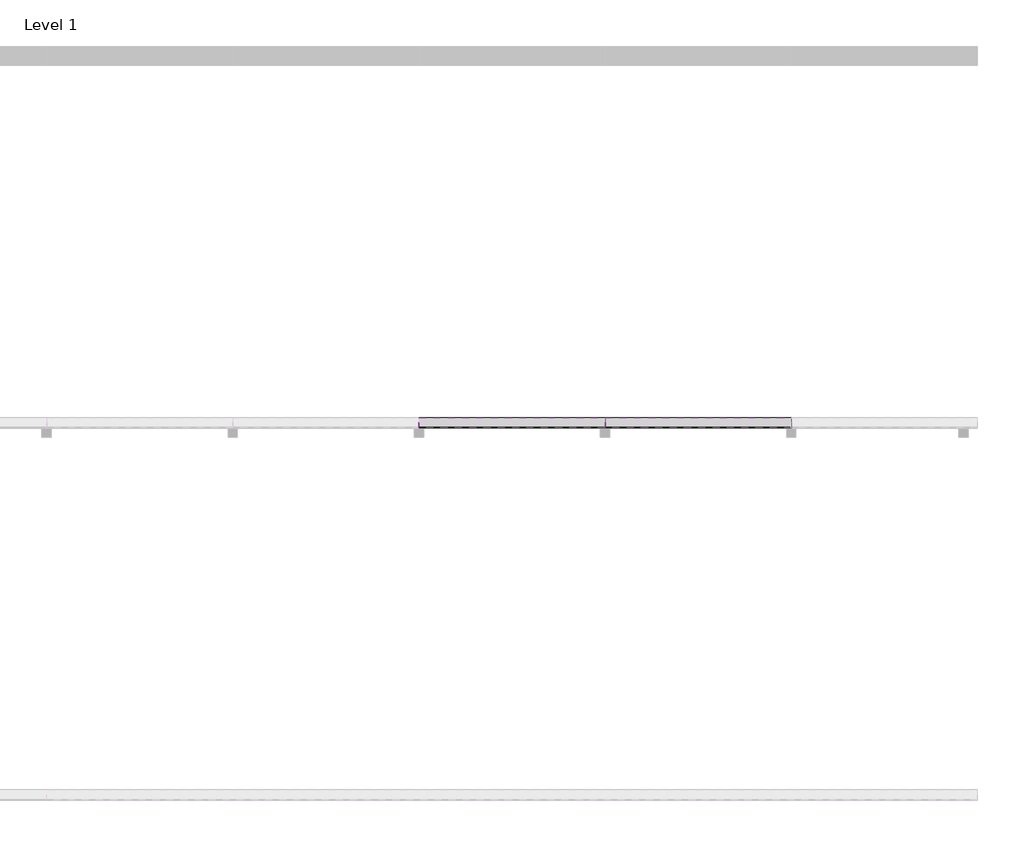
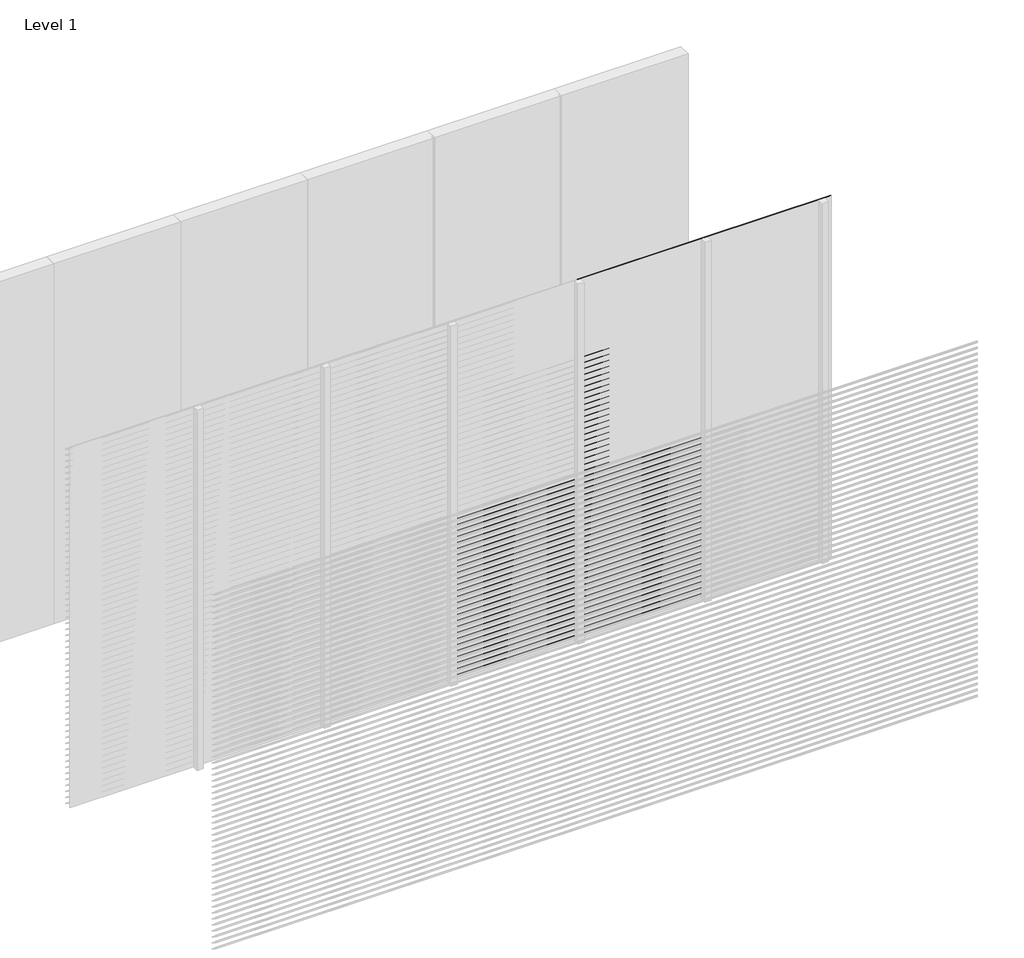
# One storey, part 9 of 18: 97 proxies.
"""IFC4 building model written with IfcOpenShell, lengths in millimetres."""

from ifc_helpers import new_model, si_unit, frame, origin, place, context, project, spatial, polyline, outline, extrude, element, save

model = new_model("IFC4")

# Units and contexts
model_context = context("Model", 3, world=origin())
ifc_project = project(units=[si_unit("LENGTHUNIT", "METRE", prefix="MILLI")], contexts=[model_context])

# Site, building, storey
site = spatial("IfcSite", under=ifc_project)
building = spatial("IfcBuilding", under=site)
storey = spatial("IfcBuildingStorey", under=building, Name="Level 1", Elevation=0.0)

# Proxies
placement = place(None, origin())
element("IfcBuildingElementProxy", 1, Name="Wall Sweeps", at=placement, inside=storey, context=model_context, shape_type="SweptSolid", body=[
    extrude(outline(polyline([(-11995.0, 1350.0), (-11995.0, 1341.0744429), (-11943.0, 1306.0), (-11943.0, 1300.0), (-11997.0, 1336.4234599), (-11997.0, 1350.0), (-11995.0, 1350.0)])), frame((3000.0, 0.0, 0.0), z_axis=(1.0, 0.0, 0.0), x_axis=(0.0, 1.0, 0.0)), (0.0, 0.0, 1.0), 1000.0),
])
element("IfcBuildingElementProxy", 2, Name="Wall Sweeps", at=placement, inside=storey, context=model_context, shape_type="SweptSolid", body=[
    extrude(outline(polyline([(-11995.0, 1300.0), (-11995.0, 1291.0744429), (-11943.0, 1256.0), (-11943.0, 1250.0), (-11997.0, 1286.4234599), (-11997.0, 1300.0), (-11995.0, 1300.0)])), frame((3000.0, 0.0, 0.0), z_axis=(1.0, 0.0, 0.0), x_axis=(0.0, 1.0, 0.0)), (0.0, 0.0, 1.0), 1000.0),
])
element("IfcBuildingElementProxy", 3, Name="Wall Sweeps", at=placement, inside=storey, context=model_context, shape_type="SweptSolid", body=[
    extrude(outline(polyline([(-11995.0, 1250.0), (-11995.0, 1241.0744429), (-11943.0, 1206.0), (-11943.0, 1200.0), (-11997.0, 1236.4234599), (-11997.0, 1250.0), (-11995.0, 1250.0)])), frame((3000.0, 0.0, 0.0), z_axis=(1.0, 0.0, 0.0), x_axis=(0.0, 1.0, 0.0)), (0.0, 0.0, 1.0), 1000.0),
])
element("IfcBuildingElementProxy", 4, Name="Wall Sweeps", at=placement, inside=storey, context=model_context, shape_type="SweptSolid", body=[
    extrude(outline(polyline([(-11995.0, 1200.0), (-11995.0, 1191.0744429), (-11943.0, 1156.0), (-11943.0, 1150.0), (-11997.0, 1186.4234599), (-11997.0, 1200.0), (-11995.0, 1200.0)])), frame((3000.0, 0.0, 0.0), z_axis=(1.0, 0.0, 0.0), x_axis=(0.0, 1.0, 0.0)), (0.0, 0.0, 1.0), 1000.0),
])
element("IfcBuildingElementProxy", 5, Name="Wall Sweeps", at=placement, inside=storey, context=model_context, shape_type="SweptSolid", body=[
    extrude(outline(polyline([(-11995.0, 1150.0), (-11995.0, 1141.0744429), (-11943.0, 1106.0), (-11943.0, 1100.0), (-11997.0, 1136.4234599), (-11997.0, 1150.0), (-11995.0, 1150.0)])), frame((3000.0, 0.0, 0.0), z_axis=(1.0, 0.0, 0.0), x_axis=(0.0, 1.0, 0.0)), (0.0, 0.0, 1.0), 1000.0),
])
element("IfcBuildingElementProxy", 6, Name="Wall Sweeps", at=placement, inside=storey, context=model_context, shape_type="SweptSolid", body=[
    extrude(outline(polyline([(-11995.0, 1100.0), (-11995.0, 1091.0744429), (-11943.0, 1056.0), (-11943.0, 1050.0), (-11997.0, 1086.4234599), (-11997.0, 1100.0), (-11995.0, 1100.0)])), frame((3000.0, 0.0, 0.0), z_axis=(1.0, 0.0, 0.0), x_axis=(0.0, 1.0, 0.0)), (0.0, 0.0, 1.0), 1000.0),
])
element("IfcBuildingElementProxy", 7, Name="Wall Sweeps", at=placement, inside=storey, context=model_context, shape_type="SweptSolid", body=[
    extrude(outline(polyline([(-11995.0, 1050.0), (-11995.0, 1041.0744429), (-11943.0, 1006.0), (-11943.0, 1000.0), (-11997.0, 1036.4234599), (-11997.0, 1050.0), (-11995.0, 1050.0)])), frame((3000.0, 0.0, 0.0), z_axis=(1.0, 0.0, 0.0), x_axis=(0.0, 1.0, 0.0)), (0.0, 0.0, 1.0), 1000.0),
])
element("IfcBuildingElementProxy", 8, Name="Wall Sweeps", at=placement, inside=storey, context=model_context, shape_type="SweptSolid", body=[
    extrude(outline(polyline([(-11995.0, 1000.0), (-11995.0, 991.0744429), (-11943.0, 956.0), (-11943.0, 950.0), (-11997.0, 986.4234599), (-11997.0, 1000.0), (-11995.0, 1000.0)])), frame((3000.0, 0.0, 0.0), z_axis=(1.0, 0.0, 0.0), x_axis=(0.0, 1.0, 0.0)), (0.0, 0.0, 1.0), 1000.0),
])
element("IfcBuildingElementProxy", 9, Name="Wall Sweeps", at=placement, inside=storey, context=model_context, shape_type="SweptSolid", body=[
    extrude(outline(polyline([(-11995.0, 950.0), (-11995.0, 941.0744429), (-11943.0, 906.0), (-11943.0, 900.0), (-11997.0, 936.4234599), (-11997.0, 950.0), (-11995.0, 950.0)])), frame((3000.0, 0.0, 0.0), z_axis=(1.0, 0.0, 0.0), x_axis=(0.0, 1.0, 0.0)), (0.0, 0.0, 1.0), 1000.0),
])
element("IfcBuildingElementProxy", 10, Name="Wall Sweeps", at=placement, inside=storey, context=model_context, shape_type="SweptSolid", body=[
    extrude(outline(polyline([(-11995.0, 900.0), (-11995.0, 891.0744429), (-11943.0, 856.0), (-11943.0, 850.0), (-11997.0, 886.4234599), (-11997.0, 900.0), (-11995.0, 900.0)])), frame((3000.0, 0.0, 0.0), z_axis=(1.0, 0.0, 0.0), x_axis=(0.0, 1.0, 0.0)), (0.0, 0.0, 1.0), 1000.0),
])
element("IfcBuildingElementProxy", 11, Name="Wall Sweeps", at=placement, inside=storey, context=model_context, shape_type="SweptSolid", body=[
    extrude(outline(polyline([(-11995.0, 850.0), (-11995.0, 841.0744429), (-11943.0, 806.0), (-11943.0, 800.0), (-11997.0, 836.4234599), (-11997.0, 850.0), (-11995.0, 850.0)])), frame((3000.0, 0.0, 0.0), z_axis=(1.0, 0.0, 0.0), x_axis=(0.0, 1.0, 0.0)), (0.0, 0.0, 1.0), 1000.0),
])
element("IfcBuildingElementProxy", 12, Name="Wall Sweeps", at=placement, inside=storey, context=model_context, shape_type="SweptSolid", body=[
    extrude(outline(polyline([(-11995.0, 800.0), (-11995.0, 791.0744429), (-11943.0, 756.0), (-11943.0, 750.0), (-11997.0, 786.4234599), (-11997.0, 800.0), (-11995.0, 800.0)])), frame((3000.0, 0.0, 0.0), z_axis=(1.0, 0.0, 0.0), x_axis=(0.0, 1.0, 0.0)), (0.0, 0.0, 1.0), 1000.0),
])
element("IfcBuildingElementProxy", 13, Name="Wall Sweeps", at=placement, inside=storey, context=model_context, shape_type="SweptSolid", body=[
    extrude(outline(polyline([(-11995.0, 750.0), (-11995.0, 741.0744429), (-11943.0, 706.0), (-11943.0, 700.0), (-11997.0, 736.4234599), (-11997.0, 750.0), (-11995.0, 750.0)])), frame((3000.0, 0.0, 0.0), z_axis=(1.0, 0.0, 0.0), x_axis=(0.0, 1.0, 0.0)), (0.0, 0.0, 1.0), 1000.0),
])
element("IfcBuildingElementProxy", 14, Name="Wall Sweeps", at=placement, inside=storey, context=model_context, shape_type="SweptSolid", body=[
    extrude(outline(polyline([(-11995.0, 700.0), (-11995.0, 691.0744429), (-11943.0, 656.0), (-11943.0, 650.0), (-11997.0, 686.4234599), (-11997.0, 700.0), (-11995.0, 700.0)])), frame((3000.0, 0.0, 0.0), z_axis=(1.0, 0.0, 0.0), x_axis=(0.0, 1.0, 0.0)), (0.0, 0.0, 1.0), 1000.0),
])
element("IfcBuildingElementProxy", 15, Name="Wall Sweeps", at=placement, inside=storey, context=model_context, shape_type="SweptSolid", body=[
    extrude(outline(polyline([(-11995.0, 650.0), (-11995.0, 641.0744429), (-11943.0, 606.0), (-11943.0, 600.0), (-11997.0, 636.4234599), (-11997.0, 650.0), (-11995.0, 650.0)])), frame((3000.0, 0.0, 0.0), z_axis=(1.0, 0.0, 0.0), x_axis=(0.0, 1.0, 0.0)), (0.0, 0.0, 1.0), 1000.0),
])
element("IfcBuildingElementProxy", 16, Name="Wall Sweeps", at=placement, inside=storey, context=model_context, shape_type="SweptSolid", body=[
    extrude(outline(polyline([(-11995.0, 600.0), (-11995.0, 591.0744429), (-11943.0, 556.0), (-11943.0, 550.0), (-11997.0, 586.4234599), (-11997.0, 600.0), (-11995.0, 600.0)])), frame((3000.0, 0.0, 0.0), z_axis=(1.0, 0.0, 0.0), x_axis=(0.0, 1.0, 0.0)), (0.0, 0.0, 1.0), 1000.0),
])
element("IfcBuildingElementProxy", 17, Name="Wall Sweeps", at=placement, inside=storey, context=model_context, shape_type="SweptSolid", body=[
    extrude(outline(polyline([(-11995.0, 550.0), (-11995.0, 541.0744429), (-11943.0, 506.0), (-11943.0, 500.0), (-11997.0, 536.4234599), (-11997.0, 550.0), (-11995.0, 550.0)])), frame((3000.0, 0.0, 0.0), z_axis=(1.0, 0.0, 0.0), x_axis=(0.0, 1.0, 0.0)), (0.0, 0.0, 1.0), 1000.0),
])
element("IfcBuildingElementProxy", 18, Name="Wall Sweeps", at=placement, inside=storey, context=model_context, shape_type="SweptSolid", body=[
    extrude(outline(polyline([(-11995.0, 500.0), (-11995.0, 491.0744429), (-11943.0, 456.0), (-11943.0, 450.0), (-11997.0, 486.4234599), (-11997.0, 500.0), (-11995.0, 500.0)])), frame((3000.0, 0.0, 0.0), z_axis=(1.0, 0.0, 0.0), x_axis=(0.0, 1.0, 0.0)), (0.0, 0.0, 1.0), 1000.0),
])
element("IfcBuildingElementProxy", 19, Name="Wall Sweeps", at=placement, inside=storey, context=model_context, shape_type="SweptSolid", body=[
    extrude(outline(polyline([(-11995.0, 450.0), (-11995.0, 441.0744429), (-11943.0, 406.0), (-11943.0, 400.0), (-11997.0, 436.4234599), (-11997.0, 450.0), (-11995.0, 450.0)])), frame((3000.0, 0.0, 0.0), z_axis=(1.0, 0.0, 0.0), x_axis=(0.0, 1.0, 0.0)), (0.0, 0.0, 1.0), 1000.0),
])
element("IfcBuildingElementProxy", 20, Name="Wall Sweeps", at=placement, inside=storey, context=model_context, shape_type="SweptSolid", body=[
    extrude(outline(polyline([(-11995.0, 400.0), (-11995.0, 391.0744429), (-11943.0, 356.0), (-11943.0, 350.0), (-11997.0, 386.4234599), (-11997.0, 400.0), (-11995.0, 400.0)])), frame((3000.0, 0.0, 0.0), z_axis=(1.0, 0.0, 0.0), x_axis=(0.0, 1.0, 0.0)), (0.0, 0.0, 1.0), 1000.0),
])
element("IfcBuildingElementProxy", 21, Name="Wall Sweeps", at=placement, inside=storey, context=model_context, shape_type="SweptSolid", body=[
    extrude(outline(polyline([(-11995.0, 350.0), (-11995.0, 341.0744429), (-11943.0, 306.0), (-11943.0, 300.0), (-11997.0, 336.4234599), (-11997.0, 350.0), (-11995.0, 350.0)])), frame((3000.0, 0.0, 0.0), z_axis=(1.0, 0.0, 0.0), x_axis=(0.0, 1.0, 0.0)), (0.0, 0.0, 1.0), 1000.0),
])
element("IfcBuildingElementProxy", 22, Name="Wall Sweeps", at=placement, inside=storey, context=model_context, shape_type="SweptSolid", body=[
    extrude(outline(polyline([(-11995.0, 300.0), (-11995.0, 291.0744429), (-11943.0, 256.0), (-11943.0, 250.0), (-11997.0, 286.4234599), (-11997.0, 300.0), (-11995.0, 300.0)])), frame((3000.0, 0.0, 0.0), z_axis=(1.0, 0.0, 0.0), x_axis=(0.0, 1.0, 0.0)), (0.0, 0.0, 1.0), 1000.0),
])
element("IfcBuildingElementProxy", 23, Name="Wall Sweeps", at=placement, inside=storey, context=model_context, shape_type="SweptSolid", body=[
    extrude(outline(polyline([(-11995.0, 250.0), (-11995.0, 241.0744429), (-11943.0, 206.0), (-11943.0, 200.0), (-11997.0, 236.4234599), (-11997.0, 250.0), (-11995.0, 250.0)])), frame((3000.0, 0.0, 0.0), z_axis=(1.0, 0.0, 0.0), x_axis=(0.0, 1.0, 0.0)), (0.0, 0.0, 1.0), 1000.0),
])
element("IfcBuildingElementProxy", 24, Name="Wall Sweeps", at=placement, inside=storey, context=model_context, shape_type="SweptSolid", body=[
    extrude(outline(polyline([(-11995.0, 200.0), (-11995.0, 191.0744429), (-11943.0, 156.0), (-11943.0, 150.0), (-11997.0, 186.4234599), (-11997.0, 200.0), (-11995.0, 200.0)])), frame((3000.0, 0.0, 0.0), z_axis=(1.0, 0.0, 0.0), x_axis=(0.0, 1.0, 0.0)), (0.0, 0.0, 1.0), 1000.0),
])
element("IfcBuildingElementProxy", 25, Name="Wall Sweeps", at=placement, inside=storey, context=model_context, shape_type="SweptSolid", body=[
    extrude(outline(polyline([(-11995.0, 150.0), (-11995.0, 141.0744429), (-11943.0, 106.0), (-11943.0, 100.0), (-11997.0, 136.4234599), (-11997.0, 150.0), (-11995.0, 150.0)])), frame((3000.0, 0.0, 0.0), z_axis=(1.0, 0.0, 0.0), x_axis=(0.0, 1.0, 0.0)), (0.0, 0.0, 1.0), 1000.0),
])
element("IfcBuildingElementProxy", 26, Name="Wall Sweeps", at=placement, inside=storey, context=model_context, shape_type="SweptSolid", body=[
    extrude(outline(polyline([(-11995.0, 100.0), (-11995.0, 91.0744429), (-11943.0, 56.0), (-11943.0, 50.0), (-11997.0, 86.4234599), (-11997.0, 100.0), (-11995.0, 100.0)])), frame((3000.0, 0.0, 0.0), z_axis=(1.0, 0.0, 0.0), x_axis=(0.0, 1.0, 0.0)), (0.0, 0.0, 1.0), 1000.0),
])
element("IfcBuildingElementProxy", 27, Name="Wall Sweeps", at=placement, inside=storey, context=model_context, shape_type="SweptSolid", body=[
    extrude(outline(polyline([(-11995.0, 50.0), (-11995.0, 41.0744429), (-11943.0, 6.0), (-11943.0, 0.0), (-11997.0, 36.4234599), (-11997.0, 50.0), (-11995.0, 50.0)])), frame((3000.0, 0.0, 0.0), z_axis=(1.0, 0.0, 0.0), x_axis=(0.0, 1.0, 0.0)), (0.0, 0.0, 1.0), 1000.0),
])
element("IfcBuildingElementProxy", 28, Name="Wall Sweeps", at=placement, inside=storey, context=model_context, shape_type="SweptSolid", body=[
    extrude(outline(polyline([(-11995.0, 3000.0), (-11995.0, 2991.0744429), (-11943.0, 2956.0), (-11943.0, 2950.0), (-11997.0, 2986.4234599), (-11997.0, 3000.0), (-11995.0, 3000.0)])), frame((4000.0, 0.0, 0.0), z_axis=(1.0, 0.0, 0.0), x_axis=(0.0, 1.0, 0.0)), (0.0, 0.0, 1.0), 1000.0),
])
element("IfcBuildingElementProxy", 29, Name="Wall Sweeps", at=placement, inside=storey, context=model_context, shape_type="SweptSolid", body=[
    extrude(outline(polyline([(-11995.0, 2950.0), (-11995.0, 2941.0744429), (-11943.0, 2906.0), (-11943.0, 2900.0), (-11997.0, 2936.4234599), (-11997.0, 2950.0), (-11995.0, 2950.0)])), frame((4000.0, 0.0, 0.0), z_axis=(1.0, 0.0, 0.0), x_axis=(0.0, 1.0, 0.0)), (0.0, 0.0, 1.0), 1000.0),
])
element("IfcBuildingElementProxy", 30, Name="Wall Sweeps", at=placement, inside=storey, context=model_context, shape_type="SweptSolid", body=[
    extrude(outline(polyline([(-11995.0, 2900.0), (-11995.0, 2891.0744429), (-11943.0, 2856.0), (-11943.0, 2850.0), (-11997.0, 2886.4234599), (-11997.0, 2900.0), (-11995.0, 2900.0)])), frame((4000.0, 0.0, 0.0), z_axis=(1.0, 0.0, 0.0), x_axis=(0.0, 1.0, 0.0)), (0.0, 0.0, 1.0), 1000.0),
])
element("IfcBuildingElementProxy", 31, Name="Wall Sweeps", at=placement, inside=storey, context=model_context, shape_type="SweptSolid", body=[
    extrude(outline(polyline([(-11995.0, 2850.0), (-11995.0, 2841.0744429), (-11943.0, 2806.0), (-11943.0, 2800.0), (-11997.0, 2836.4234599), (-11997.0, 2850.0), (-11995.0, 2850.0)])), frame((4000.0, 0.0, 0.0), z_axis=(1.0, 0.0, 0.0), x_axis=(0.0, 1.0, 0.0)), (0.0, 0.0, 1.0), 1000.0),
])
element("IfcBuildingElementProxy", 32, Name="Wall Sweeps", at=placement, inside=storey, context=model_context, shape_type="SweptSolid", body=[
    extrude(outline(polyline([(-11995.0, 2800.0), (-11995.0, 2791.0744429), (-11943.0, 2756.0), (-11943.0, 2750.0), (-11997.0, 2786.4234599), (-11997.0, 2800.0), (-11995.0, 2800.0)])), frame((4000.0, 0.0, 0.0), z_axis=(1.0, 0.0, 0.0), x_axis=(0.0, 1.0, 0.0)), (0.0, 0.0, 1.0), 1000.0),
])
element("IfcBuildingElementProxy", 33, Name="Wall Sweeps", at=placement, inside=storey, context=model_context, shape_type="SweptSolid", body=[
    extrude(outline(polyline([(-11995.0, 2750.0), (-11995.0, 2741.0744429), (-11943.0, 2706.0), (-11943.0, 2700.0), (-11997.0, 2736.4234599), (-11997.0, 2750.0), (-11995.0, 2750.0)])), frame((4000.0, 0.0, 0.0), z_axis=(1.0, 0.0, 0.0), x_axis=(0.0, 1.0, 0.0)), (0.0, 0.0, 1.0), 1000.0),
])
element("IfcBuildingElementProxy", 34, Name="Wall Sweeps", at=placement, inside=storey, context=model_context, shape_type="SweptSolid", body=[
    extrude(outline(polyline([(-11995.0, 2700.0), (-11995.0, 2691.0744429), (-11943.0, 2656.0), (-11943.0, 2650.0), (-11997.0, 2686.4234599), (-11997.0, 2700.0), (-11995.0, 2700.0)])), frame((4000.0, 0.0, 0.0), z_axis=(1.0, 0.0, 0.0), x_axis=(0.0, 1.0, 0.0)), (0.0, 0.0, 1.0), 1000.0),
])
element("IfcBuildingElementProxy", 35, Name="Wall Sweeps", at=placement, inside=storey, context=model_context, shape_type="SweptSolid", body=[
    extrude(outline(polyline([(-11995.0, 2650.0), (-11995.0, 2641.0744429), (-11943.0, 2606.0), (-11943.0, 2600.0), (-11997.0, 2636.4234599), (-11997.0, 2650.0), (-11995.0, 2650.0)])), frame((4000.0, 0.0, 0.0), z_axis=(1.0, 0.0, 0.0), x_axis=(0.0, 1.0, 0.0)), (0.0, 0.0, 1.0), 1000.0),
])
element("IfcBuildingElementProxy", 36, Name="Wall Sweeps", at=placement, inside=storey, context=model_context, shape_type="SweptSolid", body=[
    extrude(outline(polyline([(-11995.0, 2600.0), (-11995.0, 2591.0744429), (-11943.0, 2556.0), (-11943.0, 2550.0), (-11997.0, 2586.4234599), (-11997.0, 2600.0), (-11995.0, 2600.0)])), frame((4000.0, 0.0, 0.0), z_axis=(1.0, 0.0, 0.0), x_axis=(0.0, 1.0, 0.0)), (0.0, 0.0, 1.0), 1000.0),
])
element("IfcBuildingElementProxy", 37, Name="Wall Sweeps", at=placement, inside=storey, context=model_context, shape_type="SweptSolid", body=[
    extrude(outline(polyline([(-11995.0, 2550.0), (-11995.0, 2541.0744429), (-11943.0, 2506.0), (-11943.0, 2500.0), (-11997.0, 2536.4234599), (-11997.0, 2550.0), (-11995.0, 2550.0)])), frame((4000.0, 0.0, 0.0), z_axis=(1.0, 0.0, 0.0), x_axis=(0.0, 1.0, 0.0)), (0.0, 0.0, 1.0), 1000.0),
])
element("IfcBuildingElementProxy", 38, Name="Wall Sweeps", at=placement, inside=storey, context=model_context, shape_type="SweptSolid", body=[
    extrude(outline(polyline([(-11995.0, 2500.0), (-11995.0, 2491.0744429), (-11943.0, 2456.0), (-11943.0, 2450.0), (-11997.0, 2486.4234599), (-11997.0, 2500.0), (-11995.0, 2500.0)])), frame((4000.0, 0.0, 0.0), z_axis=(1.0, 0.0, 0.0), x_axis=(0.0, 1.0, 0.0)), (0.0, 0.0, 1.0), 1000.0),
])
element("IfcBuildingElementProxy", 39, Name="Wall Sweeps", at=placement, inside=storey, context=model_context, shape_type="SweptSolid", body=[
    extrude(outline(polyline([(-11995.0, 2450.0), (-11995.0, 2441.0744429), (-11943.0, 2406.0), (-11943.0, 2400.0), (-11997.0, 2436.4234599), (-11997.0, 2450.0), (-11995.0, 2450.0)])), frame((4000.0, 0.0, 0.0), z_axis=(1.0, 0.0, 0.0), x_axis=(0.0, 1.0, 0.0)), (0.0, 0.0, 1.0), 1000.0),
])
element("IfcBuildingElementProxy", 40, Name="Wall Sweeps", at=placement, inside=storey, context=model_context, shape_type="SweptSolid", body=[
    extrude(outline(polyline([(-11995.0, 2400.0), (-11995.0, 2391.0744429), (-11943.0, 2356.0), (-11943.0, 2350.0), (-11997.0, 2386.4234599), (-11997.0, 2400.0), (-11995.0, 2400.0)])), frame((4000.0, 0.0, 0.0), z_axis=(1.0, 0.0, 0.0), x_axis=(0.0, 1.0, 0.0)), (0.0, 0.0, 1.0), 1000.0),
])
element("IfcBuildingElementProxy", 41, Name="Wall Sweeps", at=placement, inside=storey, context=model_context, shape_type="SweptSolid", body=[
    extrude(outline(polyline([(-11995.0, 2350.0), (-11995.0, 2341.0744429), (-11943.0, 2306.0), (-11943.0, 2300.0), (-11997.0, 2336.4234599), (-11997.0, 2350.0), (-11995.0, 2350.0)])), frame((4000.0, 0.0, 0.0), z_axis=(1.0, 0.0, 0.0), x_axis=(0.0, 1.0, 0.0)), (0.0, 0.0, 1.0), 1000.0),
])
element("IfcBuildingElementProxy", 42, Name="Wall Sweeps", at=placement, inside=storey, context=model_context, shape_type="SweptSolid", body=[
    extrude(outline(polyline([(-11995.0, 2300.0), (-11995.0, 2291.0744429), (-11943.0, 2256.0), (-11943.0, 2250.0), (-11997.0, 2286.4234599), (-11997.0, 2300.0), (-11995.0, 2300.0)])), frame((4000.0, 0.0, 0.0), z_axis=(1.0, 0.0, 0.0), x_axis=(0.0, 1.0, 0.0)), (0.0, 0.0, 1.0), 1000.0),
])
element("IfcBuildingElementProxy", 43, Name="Wall Sweeps", at=placement, inside=storey, context=model_context, shape_type="SweptSolid", body=[
    extrude(outline(polyline([(-11995.0, 2250.0), (-11995.0, 2241.0744429), (-11943.0, 2206.0), (-11943.0, 2200.0), (-11997.0, 2236.4234599), (-11997.0, 2250.0), (-11995.0, 2250.0)])), frame((4000.0, 0.0, 0.0), z_axis=(1.0, 0.0, 0.0), x_axis=(0.0, 1.0, 0.0)), (0.0, 0.0, 1.0), 1000.0),
])
element("IfcBuildingElementProxy", 44, Name="Wall Sweeps", at=placement, inside=storey, context=model_context, shape_type="SweptSolid", body=[
    extrude(outline(polyline([(-11995.0, 2200.0), (-11995.0, 2191.0744429), (-11943.0, 2156.0), (-11943.0, 2150.0), (-11997.0, 2186.4234599), (-11997.0, 2200.0), (-11995.0, 2200.0)])), frame((4000.0, 0.0, 0.0), z_axis=(1.0, 0.0, 0.0), x_axis=(0.0, 1.0, 0.0)), (0.0, 0.0, 1.0), 1000.0),
])
element("IfcBuildingElementProxy", 45, Name="Wall Sweeps", at=placement, inside=storey, context=model_context, shape_type="SweptSolid", body=[
    extrude(outline(polyline([(-11995.0, 2150.0), (-11995.0, 2141.0744429), (-11943.0, 2106.0), (-11943.0, 2100.0), (-11997.0, 2136.4234599), (-11997.0, 2150.0), (-11995.0, 2150.0)])), frame((4000.0, 0.0, 0.0), z_axis=(1.0, 0.0, 0.0), x_axis=(0.0, 1.0, 0.0)), (0.0, 0.0, 1.0), 1000.0),
])
element("IfcBuildingElementProxy", 46, Name="Wall Sweeps", at=placement, inside=storey, context=model_context, shape_type="SweptSolid", body=[
    extrude(outline(polyline([(-11995.0, 2100.0), (-11995.0, 2091.0744429), (-11943.0, 2056.0), (-11943.0, 2050.0), (-11997.0, 2086.4234599), (-11997.0, 2100.0), (-11995.0, 2100.0)])), frame((4000.0, 0.0, 0.0), z_axis=(1.0, 0.0, 0.0), x_axis=(0.0, 1.0, 0.0)), (0.0, 0.0, 1.0), 1000.0),
])
element("IfcBuildingElementProxy", 47, Name="Wall Sweeps", at=placement, inside=storey, context=model_context, shape_type="SweptSolid", body=[
    extrude(outline(polyline([(-11995.0, 2050.0), (-11995.0, 2041.0744429), (-11943.0, 2006.0), (-11943.0, 2000.0), (-11997.0, 2036.4234599), (-11997.0, 2050.0), (-11995.0, 2050.0)])), frame((4000.0, 0.0, 0.0), z_axis=(1.0, 0.0, 0.0), x_axis=(0.0, 1.0, 0.0)), (0.0, 0.0, 1.0), 1000.0),
])
element("IfcBuildingElementProxy", 48, Name="Wall Sweeps", at=placement, inside=storey, context=model_context, shape_type="SweptSolid", body=[
    extrude(outline(polyline([(-11995.0, 2000.0), (-11995.0, 1991.0744429), (-11943.0, 1956.0), (-11943.0, 1950.0), (-11997.0, 1986.4234599), (-11997.0, 2000.0), (-11995.0, 2000.0)])), frame((4000.0, 0.0, 0.0), z_axis=(1.0, 0.0, 0.0), x_axis=(0.0, 1.0, 0.0)), (0.0, 0.0, 1.0), 1000.0),
])
element("IfcBuildingElementProxy", 49, Name="Wall Sweeps", at=placement, inside=storey, context=model_context, shape_type="SweptSolid", body=[
    extrude(outline(polyline([(-11995.0, 1950.0), (-11995.0, 1941.0744429), (-11943.0, 1906.0), (-11943.0, 1900.0), (-11997.0, 1936.4234599), (-11997.0, 1950.0), (-11995.0, 1950.0)])), frame((4000.0, 0.0, 0.0), z_axis=(1.0, 0.0, 0.0), x_axis=(0.0, 1.0, 0.0)), (0.0, 0.0, 1.0), 1000.0),
])
element("IfcBuildingElementProxy", 50, Name="Wall Sweeps", at=placement, inside=storey, context=model_context, shape_type="SweptSolid", body=[
    extrude(outline(polyline([(-11995.0, 1900.0), (-11995.0, 1891.0744429), (-11943.0, 1856.0), (-11943.0, 1850.0), (-11997.0, 1886.4234599), (-11997.0, 1900.0), (-11995.0, 1900.0)])), frame((4000.0, 0.0, 0.0), z_axis=(1.0, 0.0, 0.0), x_axis=(0.0, 1.0, 0.0)), (0.0, 0.0, 1.0), 1000.0),
])
element("IfcBuildingElementProxy", 51, Name="Wall Sweeps", at=placement, inside=storey, context=model_context, shape_type="SweptSolid", body=[
    extrude(outline(polyline([(-11995.0, 1850.0), (-11995.0, 1841.0744429), (-11943.0, 1806.0), (-11943.0, 1800.0), (-11997.0, 1836.4234599), (-11997.0, 1850.0), (-11995.0, 1850.0)])), frame((4000.0, 0.0, 0.0), z_axis=(1.0, 0.0, 0.0), x_axis=(0.0, 1.0, 0.0)), (0.0, 0.0, 1.0), 1000.0),
])
element("IfcBuildingElementProxy", 52, Name="Wall Sweeps", at=placement, inside=storey, context=model_context, shape_type="SweptSolid", body=[
    extrude(outline(polyline([(-11995.0, 1800.0), (-11995.0, 1791.0744429), (-11943.0, 1756.0), (-11943.0, 1750.0), (-11997.0, 1786.4234599), (-11997.0, 1800.0), (-11995.0, 1800.0)])), frame((4000.0, 0.0, 0.0), z_axis=(1.0, 0.0, 0.0), x_axis=(0.0, 1.0, 0.0)), (0.0, 0.0, 1.0), 1000.0),
])
element("IfcBuildingElementProxy", 53, Name="Wall Sweeps", at=placement, inside=storey, context=model_context, shape_type="SweptSolid", body=[
    extrude(outline(polyline([(-11995.0, 1750.0), (-11995.0, 1741.0744429), (-11943.0, 1706.0), (-11943.0, 1700.0), (-11997.0, 1736.4234599), (-11997.0, 1750.0), (-11995.0, 1750.0)])), frame((4000.0, 0.0, 0.0), z_axis=(1.0, 0.0, 0.0), x_axis=(0.0, 1.0, 0.0)), (0.0, 0.0, 1.0), 1000.0),
])
element("IfcBuildingElementProxy", 54, Name="Wall Sweeps", at=placement, inside=storey, context=model_context, shape_type="SweptSolid", body=[
    extrude(outline(polyline([(-11995.0, 1700.0), (-11995.0, 1691.0744429), (-11943.0, 1656.0), (-11943.0, 1650.0), (-11997.0, 1686.4234599), (-11997.0, 1700.0), (-11995.0, 1700.0)])), frame((4000.0, 0.0, 0.0), z_axis=(1.0, 0.0, 0.0), x_axis=(0.0, 1.0, 0.0)), (0.0, 0.0, 1.0), 1000.0),
])
element("IfcBuildingElementProxy", 55, Name="Wall Sweeps", at=placement, inside=storey, context=model_context, shape_type="SweptSolid", body=[
    extrude(outline(polyline([(-11995.0, 1650.0), (-11995.0, 1641.0744429), (-11943.0, 1606.0), (-11943.0, 1600.0), (-11997.0, 1636.4234599), (-11997.0, 1650.0), (-11995.0, 1650.0)])), frame((4000.0, 0.0, 0.0), z_axis=(1.0, 0.0, 0.0), x_axis=(0.0, 1.0, 0.0)), (0.0, 0.0, 1.0), 1000.0),
])
element("IfcBuildingElementProxy", 56, Name="Wall Sweeps", at=placement, inside=storey, context=model_context, shape_type="SweptSolid", body=[
    extrude(outline(polyline([(-11995.0, 1600.0), (-11995.0, 1591.0744429), (-11943.0, 1556.0), (-11943.0, 1550.0), (-11997.0, 1586.4234599), (-11997.0, 1600.0), (-11995.0, 1600.0)])), frame((4000.0, 0.0, 0.0), z_axis=(1.0, 0.0, 0.0), x_axis=(0.0, 1.0, 0.0)), (0.0, 0.0, 1.0), 1000.0),
])
element("IfcBuildingElementProxy", 57, Name="Wall Sweeps", at=placement, inside=storey, context=model_context, shape_type="SweptSolid", body=[
    extrude(outline(polyline([(-11995.0, 1550.0), (-11995.0, 1541.0744429), (-11943.0, 1506.0), (-11943.0, 1500.0), (-11997.0, 1536.4234599), (-11997.0, 1550.0), (-11995.0, 1550.0)])), frame((4000.0, 0.0, 0.0), z_axis=(1.0, 0.0, 0.0), x_axis=(0.0, 1.0, 0.0)), (0.0, 0.0, 1.0), 1000.0),
])
element("IfcBuildingElementProxy", 58, Name="Wall Sweeps", at=placement, inside=storey, context=model_context, shape_type="SweptSolid", body=[
    extrude(outline(polyline([(-11995.0, 1500.0), (-11995.0, 1491.0744429), (-11943.0, 1456.0), (-11943.0, 1450.0), (-11997.0, 1486.4234599), (-11997.0, 1500.0), (-11995.0, 1500.0)])), frame((4000.0, 0.0, 0.0), z_axis=(1.0, 0.0, 0.0), x_axis=(0.0, 1.0, 0.0)), (0.0, 0.0, 1.0), 1000.0),
])
element("IfcBuildingElementProxy", 59, Name="Wall Sweeps", at=placement, inside=storey, context=model_context, shape_type="SweptSolid", body=[
    extrude(outline(polyline([(-11995.0, 1450.0), (-11995.0, 1441.0744429), (-11943.0, 1406.0), (-11943.0, 1400.0), (-11997.0, 1436.4234599), (-11997.0, 1450.0), (-11995.0, 1450.0)])), frame((4000.0, 0.0, 0.0), z_axis=(1.0, 0.0, 0.0), x_axis=(0.0, 1.0, 0.0)), (0.0, 0.0, 1.0), 1000.0),
])
element("IfcBuildingElementProxy", 60, Name="Wall Sweeps", at=placement, inside=storey, context=model_context, shape_type="SweptSolid", body=[
    extrude(outline(polyline([(-11995.0, 1400.0), (-11995.0, 1391.0744429), (-11943.0, 1356.0), (-11943.0, 1350.0), (-11997.0, 1386.4234599), (-11997.0, 1400.0), (-11995.0, 1400.0)])), frame((4000.0, 0.0, 0.0), z_axis=(1.0, 0.0, 0.0), x_axis=(0.0, 1.0, 0.0)), (0.0, 0.0, 1.0), 1000.0),
])
element("IfcBuildingElementProxy", 61, Name="Wall Sweeps", at=placement, inside=storey, context=model_context, shape_type="SweptSolid", body=[
    extrude(outline(polyline([(-11995.0, 1350.0), (-11995.0, 1341.0744429), (-11943.0, 1306.0), (-11943.0, 1300.0), (-11997.0, 1336.4234599), (-11997.0, 1350.0), (-11995.0, 1350.0)])), frame((4000.0, 0.0, 0.0), z_axis=(1.0, 0.0, 0.0), x_axis=(0.0, 1.0, 0.0)), (0.0, 0.0, 1.0), 1000.0),
])
element("IfcBuildingElementProxy", 62, Name="Wall Sweeps", at=placement, inside=storey, context=model_context, shape_type="SweptSolid", body=[
    extrude(outline(polyline([(-11995.0, 1300.0), (-11995.0, 1291.0744429), (-11943.0, 1256.0), (-11943.0, 1250.0), (-11997.0, 1286.4234599), (-11997.0, 1300.0), (-11995.0, 1300.0)])), frame((4000.0, 0.0, 0.0), z_axis=(1.0, 0.0, 0.0), x_axis=(0.0, 1.0, 0.0)), (0.0, 0.0, 1.0), 1000.0),
])
element("IfcBuildingElementProxy", 63, Name="Wall Sweeps", at=placement, inside=storey, context=model_context, shape_type="SweptSolid", body=[
    extrude(outline(polyline([(-11995.0, 1250.0), (-11995.0, 1241.0744429), (-11943.0, 1206.0), (-11943.0, 1200.0), (-11997.0, 1236.4234599), (-11997.0, 1250.0), (-11995.0, 1250.0)])), frame((4000.0, 0.0, 0.0), z_axis=(1.0, 0.0, 0.0), x_axis=(0.0, 1.0, 0.0)), (0.0, 0.0, 1.0), 1000.0),
])
element("IfcBuildingElementProxy", 64, Name="Wall Sweeps", at=placement, inside=storey, context=model_context, shape_type="SweptSolid", body=[
    extrude(outline(polyline([(-11995.0, 1200.0), (-11995.0, 1191.0744429), (-11943.0, 1156.0), (-11943.0, 1150.0), (-11997.0, 1186.4234599), (-11997.0, 1200.0), (-11995.0, 1200.0)])), frame((4000.0, 0.0, 0.0), z_axis=(1.0, 0.0, 0.0), x_axis=(0.0, 1.0, 0.0)), (0.0, 0.0, 1.0), 1000.0),
])
element("IfcBuildingElementProxy", 65, Name="Wall Sweeps", at=placement, inside=storey, context=model_context, shape_type="SweptSolid", body=[
    extrude(outline(polyline([(-11995.0, 1150.0), (-11995.0, 1141.0744429), (-11943.0, 1106.0), (-11943.0, 1100.0), (-11997.0, 1136.4234599), (-11997.0, 1150.0), (-11995.0, 1150.0)])), frame((4000.0, 0.0, 0.0), z_axis=(1.0, 0.0, 0.0), x_axis=(0.0, 1.0, 0.0)), (0.0, 0.0, 1.0), 1000.0),
])
element("IfcBuildingElementProxy", 66, Name="Wall Sweeps", at=placement, inside=storey, context=model_context, shape_type="SweptSolid", body=[
    extrude(outline(polyline([(-11995.0, 1100.0), (-11995.0, 1091.0744429), (-11943.0, 1056.0), (-11943.0, 1050.0), (-11997.0, 1086.4234599), (-11997.0, 1100.0), (-11995.0, 1100.0)])), frame((4000.0, 0.0, 0.0), z_axis=(1.0, 0.0, 0.0), x_axis=(0.0, 1.0, 0.0)), (0.0, 0.0, 1.0), 1000.0),
])
element("IfcBuildingElementProxy", 67, Name="Wall Sweeps", at=placement, inside=storey, context=model_context, shape_type="SweptSolid", body=[
    extrude(outline(polyline([(-11995.0, 1050.0), (-11995.0, 1041.0744429), (-11943.0, 1006.0), (-11943.0, 1000.0), (-11997.0, 1036.4234599), (-11997.0, 1050.0), (-11995.0, 1050.0)])), frame((4000.0, 0.0, 0.0), z_axis=(1.0, 0.0, 0.0), x_axis=(0.0, 1.0, 0.0)), (0.0, 0.0, 1.0), 1000.0),
])
element("IfcBuildingElementProxy", 68, Name="Wall Sweeps", at=placement, inside=storey, context=model_context, shape_type="SweptSolid", body=[
    extrude(outline(polyline([(-11995.0, 1000.0), (-11995.0, 991.0744429), (-11943.0, 956.0), (-11943.0, 950.0), (-11997.0, 986.4234599), (-11997.0, 1000.0), (-11995.0, 1000.0)])), frame((4000.0, 0.0, 0.0), z_axis=(1.0, 0.0, 0.0), x_axis=(0.0, 1.0, 0.0)), (0.0, 0.0, 1.0), 1000.0),
])
element("IfcBuildingElementProxy", 69, Name="Wall Sweeps", at=placement, inside=storey, context=model_context, shape_type="SweptSolid", body=[
    extrude(outline(polyline([(-11995.0, 950.0), (-11995.0, 941.0744429), (-11943.0, 906.0), (-11943.0, 900.0), (-11997.0, 936.4234599), (-11997.0, 950.0), (-11995.0, 950.0)])), frame((4000.0, 0.0, 0.0), z_axis=(1.0, 0.0, 0.0), x_axis=(0.0, 1.0, 0.0)), (0.0, 0.0, 1.0), 1000.0),
])
element("IfcBuildingElementProxy", 70, Name="Wall Sweeps", at=placement, inside=storey, context=model_context, shape_type="SweptSolid", body=[
    extrude(outline(polyline([(-11995.0, 900.0), (-11995.0, 891.0744429), (-11943.0, 856.0), (-11943.0, 850.0), (-11997.0, 886.4234599), (-11997.0, 900.0), (-11995.0, 900.0)])), frame((4000.0, 0.0, 0.0), z_axis=(1.0, 0.0, 0.0), x_axis=(0.0, 1.0, 0.0)), (0.0, 0.0, 1.0), 1000.0),
])
element("IfcBuildingElementProxy", 71, Name="Wall Sweeps", at=placement, inside=storey, context=model_context, shape_type="SweptSolid", body=[
    extrude(outline(polyline([(-11995.0, 850.0), (-11995.0, 841.0744429), (-11943.0, 806.0), (-11943.0, 800.0), (-11997.0, 836.4234599), (-11997.0, 850.0), (-11995.0, 850.0)])), frame((4000.0, 0.0, 0.0), z_axis=(1.0, 0.0, 0.0), x_axis=(0.0, 1.0, 0.0)), (0.0, 0.0, 1.0), 1000.0),
])
element("IfcBuildingElementProxy", 72, Name="Wall Sweeps", at=placement, inside=storey, context=model_context, shape_type="SweptSolid", body=[
    extrude(outline(polyline([(-11995.0, 800.0), (-11995.0, 791.0744429), (-11943.0, 756.0), (-11943.0, 750.0), (-11997.0, 786.4234599), (-11997.0, 800.0), (-11995.0, 800.0)])), frame((4000.0, 0.0, 0.0), z_axis=(1.0, 0.0, 0.0), x_axis=(0.0, 1.0, 0.0)), (0.0, 0.0, 1.0), 1000.0),
])
element("IfcBuildingElementProxy", 73, Name="Wall Sweeps", at=placement, inside=storey, context=model_context, shape_type="SweptSolid", body=[
    extrude(outline(polyline([(-11995.0, 750.0), (-11995.0, 741.0744429), (-11943.0, 706.0), (-11943.0, 700.0), (-11997.0, 736.4234599), (-11997.0, 750.0), (-11995.0, 750.0)])), frame((4000.0, 0.0, 0.0), z_axis=(1.0, 0.0, 0.0), x_axis=(0.0, 1.0, 0.0)), (0.0, 0.0, 1.0), 1000.0),
])
element("IfcBuildingElementProxy", 74, Name="Wall Sweeps", at=placement, inside=storey, context=model_context, shape_type="SweptSolid", body=[
    extrude(outline(polyline([(-11995.0, 700.0), (-11995.0, 691.0744429), (-11943.0, 656.0), (-11943.0, 650.0), (-11997.0, 686.4234599), (-11997.0, 700.0), (-11995.0, 700.0)])), frame((4000.0, 0.0, 0.0), z_axis=(1.0, 0.0, 0.0), x_axis=(0.0, 1.0, 0.0)), (0.0, 0.0, 1.0), 1000.0),
])
element("IfcBuildingElementProxy", 75, Name="Wall Sweeps", at=placement, inside=storey, context=model_context, shape_type="SweptSolid", body=[
    extrude(outline(polyline([(-11995.0, 650.0), (-11995.0, 641.0744429), (-11943.0, 606.0), (-11943.0, 600.0), (-11997.0, 636.4234599), (-11997.0, 650.0), (-11995.0, 650.0)])), frame((4000.0, 0.0, 0.0), z_axis=(1.0, 0.0, 0.0), x_axis=(0.0, 1.0, 0.0)), (0.0, 0.0, 1.0), 1000.0),
])
element("IfcBuildingElementProxy", 76, Name="Wall Sweeps", at=placement, inside=storey, context=model_context, shape_type="SweptSolid", body=[
    extrude(outline(polyline([(-11995.0, 600.0), (-11995.0, 591.0744429), (-11943.0, 556.0), (-11943.0, 550.0), (-11997.0, 586.4234599), (-11997.0, 600.0), (-11995.0, 600.0)])), frame((4000.0, 0.0, 0.0), z_axis=(1.0, 0.0, 0.0), x_axis=(0.0, 1.0, 0.0)), (0.0, 0.0, 1.0), 1000.0),
])
element("IfcBuildingElementProxy", 77, Name="Wall Sweeps", at=placement, inside=storey, context=model_context, shape_type="SweptSolid", body=[
    extrude(outline(polyline([(-11995.0, 550.0), (-11995.0, 541.0744429), (-11943.0, 506.0), (-11943.0, 500.0), (-11997.0, 536.4234599), (-11997.0, 550.0), (-11995.0, 550.0)])), frame((4000.0, 0.0, 0.0), z_axis=(1.0, 0.0, 0.0), x_axis=(0.0, 1.0, 0.0)), (0.0, 0.0, 1.0), 1000.0),
])
element("IfcBuildingElementProxy", 78, Name="Wall Sweeps", at=placement, inside=storey, context=model_context, shape_type="SweptSolid", body=[
    extrude(outline(polyline([(-11995.0, 500.0), (-11995.0, 491.0744429), (-11943.0, 456.0), (-11943.0, 450.0), (-11997.0, 486.4234599), (-11997.0, 500.0), (-11995.0, 500.0)])), frame((4000.0, 0.0, 0.0), z_axis=(1.0, 0.0, 0.0), x_axis=(0.0, 1.0, 0.0)), (0.0, 0.0, 1.0), 1000.0),
])
element("IfcBuildingElementProxy", 79, Name="Wall Sweeps", at=placement, inside=storey, context=model_context, shape_type="SweptSolid", body=[
    extrude(outline(polyline([(-11995.0, 450.0), (-11995.0, 441.0744429), (-11943.0, 406.0), (-11943.0, 400.0), (-11997.0, 436.4234599), (-11997.0, 450.0), (-11995.0, 450.0)])), frame((4000.0, 0.0, 0.0), z_axis=(1.0, 0.0, 0.0), x_axis=(0.0, 1.0, 0.0)), (0.0, 0.0, 1.0), 1000.0),
])
element("IfcBuildingElementProxy", 80, Name="Wall Sweeps", at=placement, inside=storey, context=model_context, shape_type="SweptSolid", body=[
    extrude(outline(polyline([(-11995.0, 400.0), (-11995.0, 391.0744429), (-11943.0, 356.0), (-11943.0, 350.0), (-11997.0, 386.4234599), (-11997.0, 400.0), (-11995.0, 400.0)])), frame((4000.0, 0.0, 0.0), z_axis=(1.0, 0.0, 0.0), x_axis=(0.0, 1.0, 0.0)), (0.0, 0.0, 1.0), 1000.0),
])
element("IfcBuildingElementProxy", 81, Name="Wall Sweeps", at=placement, inside=storey, context=model_context, shape_type="SweptSolid", body=[
    extrude(outline(polyline([(-11995.0, 350.0), (-11995.0, 341.0744429), (-11943.0, 306.0), (-11943.0, 300.0), (-11997.0, 336.4234599), (-11997.0, 350.0), (-11995.0, 350.0)])), frame((4000.0, 0.0, 0.0), z_axis=(1.0, 0.0, 0.0), x_axis=(0.0, 1.0, 0.0)), (0.0, 0.0, 1.0), 1000.0),
])
element("IfcBuildingElementProxy", 82, Name="Wall Sweeps", at=placement, inside=storey, context=model_context, shape_type="SweptSolid", body=[
    extrude(outline(polyline([(-11995.0, 300.0), (-11995.0, 291.0744429), (-11943.0, 256.0), (-11943.0, 250.0), (-11997.0, 286.4234599), (-11997.0, 300.0), (-11995.0, 300.0)])), frame((4000.0, 0.0, 0.0), z_axis=(1.0, 0.0, 0.0), x_axis=(0.0, 1.0, 0.0)), (0.0, 0.0, 1.0), 1000.0),
])
element("IfcBuildingElementProxy", 83, Name="Wall Sweeps", at=placement, inside=storey, context=model_context, shape_type="SweptSolid", body=[
    extrude(outline(polyline([(-11995.0, 250.0), (-11995.0, 241.0744429), (-11943.0, 206.0), (-11943.0, 200.0), (-11997.0, 236.4234599), (-11997.0, 250.0), (-11995.0, 250.0)])), frame((4000.0, 0.0, 0.0), z_axis=(1.0, 0.0, 0.0), x_axis=(0.0, 1.0, 0.0)), (0.0, 0.0, 1.0), 1000.0),
])
element("IfcBuildingElementProxy", 84, Name="Wall Sweeps", at=placement, inside=storey, context=model_context, shape_type="SweptSolid", body=[
    extrude(outline(polyline([(-11995.0, 200.0), (-11995.0, 191.0744429), (-11943.0, 156.0), (-11943.0, 150.0), (-11997.0, 186.4234599), (-11997.0, 200.0), (-11995.0, 200.0)])), frame((4000.0, 0.0, 0.0), z_axis=(1.0, 0.0, 0.0), x_axis=(0.0, 1.0, 0.0)), (0.0, 0.0, 1.0), 1000.0),
])
element("IfcBuildingElementProxy", 85, Name="Wall Sweeps", at=placement, inside=storey, context=model_context, shape_type="SweptSolid", body=[
    extrude(outline(polyline([(-11995.0, 150.0), (-11995.0, 141.0744429), (-11943.0, 106.0), (-11943.0, 100.0), (-11997.0, 136.4234599), (-11997.0, 150.0), (-11995.0, 150.0)])), frame((4000.0, 0.0, 0.0), z_axis=(1.0, 0.0, 0.0), x_axis=(0.0, 1.0, 0.0)), (0.0, 0.0, 1.0), 1000.0),
])
element("IfcBuildingElementProxy", 86, Name="Wall Sweeps", at=placement, inside=storey, context=model_context, shape_type="SweptSolid", body=[
    extrude(outline(polyline([(-11995.0, 100.0), (-11995.0, 91.0744429), (-11943.0, 56.0), (-11943.0, 50.0), (-11997.0, 86.4234599), (-11997.0, 100.0), (-11995.0, 100.0)])), frame((4000.0, 0.0, 0.0), z_axis=(1.0, 0.0, 0.0), x_axis=(0.0, 1.0, 0.0)), (0.0, 0.0, 1.0), 1000.0),
])
element("IfcBuildingElementProxy", 87, Name="Wall Sweeps", at=placement, inside=storey, context=model_context, shape_type="SweptSolid", body=[
    extrude(outline(polyline([(-11995.0, 50.0), (-11995.0, 41.0744429), (-11943.0, 6.0), (-11943.0, 0.0), (-11997.0, 36.4234599), (-11997.0, 50.0), (-11995.0, 50.0)])), frame((4000.0, 0.0, 0.0), z_axis=(1.0, 0.0, 0.0), x_axis=(0.0, 1.0, 0.0)), (0.0, 0.0, 1.0), 1000.0),
])
element("IfcBuildingElementProxy", 88, Name="Wall Sweeps", at=placement, inside=storey, context=model_context, shape_type="SweptSolid", body=[
    extrude(outline(polyline([(-11995.0, 3000.0), (-11995.0, 2991.0744429), (-11943.0, 2956.0), (-11943.0, 2950.0), (-11997.0, 2986.4234599), (-11997.0, 3000.0), (-11995.0, 3000.0)])), frame((5000.0, 0.0, 0.0), z_axis=(1.0, 0.0, 0.0), x_axis=(0.0, 1.0, 0.0)), (0.0, 0.0, 1.0), 1000.0),
])
element("IfcBuildingElementProxy", 89, Name="Wall Sweeps", at=placement, inside=storey, context=model_context, shape_type="SweptSolid", body=[
    extrude(outline(polyline([(-11995.0, 2950.0), (-11995.0, 2941.0744429), (-11943.0, 2906.0), (-11943.0, 2900.0), (-11997.0, 2936.4234599), (-11997.0, 2950.0), (-11995.0, 2950.0)])), frame((5000.0, 0.0, 0.0), z_axis=(1.0, 0.0, 0.0), x_axis=(0.0, 1.0, 0.0)), (0.0, 0.0, 1.0), 1000.0),
])
element("IfcBuildingElementProxy", 90, Name="Wall Sweeps", at=placement, inside=storey, context=model_context, shape_type="SweptSolid", body=[
    extrude(outline(polyline([(-11995.0, 2900.0), (-11995.0, 2891.0744429), (-11943.0, 2856.0), (-11943.0, 2850.0), (-11997.0, 2886.4234599), (-11997.0, 2900.0), (-11995.0, 2900.0)])), frame((5000.0, 0.0, 0.0), z_axis=(1.0, 0.0, 0.0), x_axis=(0.0, 1.0, 0.0)), (0.0, 0.0, 1.0), 1000.0),
])
element("IfcBuildingElementProxy", 91, Name="Wall Sweeps", at=placement, inside=storey, context=model_context, shape_type="SweptSolid", body=[
    extrude(outline(polyline([(-11995.0, 2850.0), (-11995.0, 2841.0744429), (-11943.0, 2806.0), (-11943.0, 2800.0), (-11997.0, 2836.4234599), (-11997.0, 2850.0), (-11995.0, 2850.0)])), frame((5000.0, 0.0, 0.0), z_axis=(1.0, 0.0, 0.0), x_axis=(0.0, 1.0, 0.0)), (0.0, 0.0, 1.0), 1000.0),
])
element("IfcBuildingElementProxy", 92, Name="Wall Sweeps", at=placement, inside=storey, context=model_context, shape_type="SweptSolid", body=[
    extrude(outline(polyline([(-11995.0, 2800.0), (-11995.0, 2791.0744429), (-11943.0, 2756.0), (-11943.0, 2750.0), (-11997.0, 2786.4234599), (-11997.0, 2800.0), (-11995.0, 2800.0)])), frame((5000.0, 0.0, 0.0), z_axis=(1.0, 0.0, 0.0), x_axis=(0.0, 1.0, 0.0)), (0.0, 0.0, 1.0), 1000.0),
])
element("IfcBuildingElementProxy", 93, Name="Wall Sweeps", at=placement, inside=storey, context=model_context, shape_type="SweptSolid", body=[
    extrude(outline(polyline([(-11995.0, 2750.0), (-11995.0, 2741.0744429), (-11943.0, 2706.0), (-11943.0, 2700.0), (-11997.0, 2736.4234599), (-11997.0, 2750.0), (-11995.0, 2750.0)])), frame((5000.0, 0.0, 0.0), z_axis=(1.0, 0.0, 0.0), x_axis=(0.0, 1.0, 0.0)), (0.0, 0.0, 1.0), 1000.0),
])
element("IfcBuildingElementProxy", 94, Name="Wall Sweeps", at=placement, inside=storey, context=model_context, shape_type="SweptSolid", body=[
    extrude(outline(polyline([(-11995.0, 2700.0), (-11995.0, 2691.0744429), (-11943.0, 2656.0), (-11943.0, 2650.0), (-11997.0, 2686.4234599), (-11997.0, 2700.0), (-11995.0, 2700.0)])), frame((5000.0, 0.0, 0.0), z_axis=(1.0, 0.0, 0.0), x_axis=(0.0, 1.0, 0.0)), (0.0, 0.0, 1.0), 1000.0),
])
element("IfcBuildingElementProxy", 95, Name="Wall Sweeps", at=placement, inside=storey, context=model_context, shape_type="SweptSolid", body=[
    extrude(outline(polyline([(-11995.0, 2650.0), (-11995.0, 2641.0744429), (-11943.0, 2606.0), (-11943.0, 2600.0), (-11997.0, 2636.4234599), (-11997.0, 2650.0), (-11995.0, 2650.0)])), frame((5000.0, 0.0, 0.0), z_axis=(1.0, 0.0, 0.0), x_axis=(0.0, 1.0, 0.0)), (0.0, 0.0, 1.0), 1000.0),
])
element("IfcBuildingElementProxy", 96, Name="Wall Sweeps", at=placement, inside=storey, context=model_context, shape_type="SweptSolid", body=[
    extrude(outline(polyline([(-11995.0, 2600.0), (-11995.0, 2591.0744429), (-11943.0, 2556.0), (-11943.0, 2550.0), (-11997.0, 2586.4234599), (-11997.0, 2600.0), (-11995.0, 2600.0)])), frame((5000.0, 0.0, 0.0), z_axis=(1.0, 0.0, 0.0), x_axis=(0.0, 1.0, 0.0)), (0.0, 0.0, 1.0), 1000.0),
])
element("IfcBuildingElementProxy", 97, Name="Wall Sweeps", at=placement, inside=storey, context=model_context, shape_type="SweptSolid", body=[
    extrude(outline(polyline([(-11995.0, 2550.0), (-11995.0, 2541.0744429), (-11943.0, 2506.0), (-11943.0, 2500.0), (-11997.0, 2536.4234599), (-11997.0, 2550.0), (-11995.0, 2550.0)])), frame((5000.0, 0.0, 0.0), z_axis=(1.0, 0.0, 0.0), x_axis=(0.0, 1.0, 0.0)), (0.0, 0.0, 1.0), 1000.0),
])

save(model, "model.ifc")
